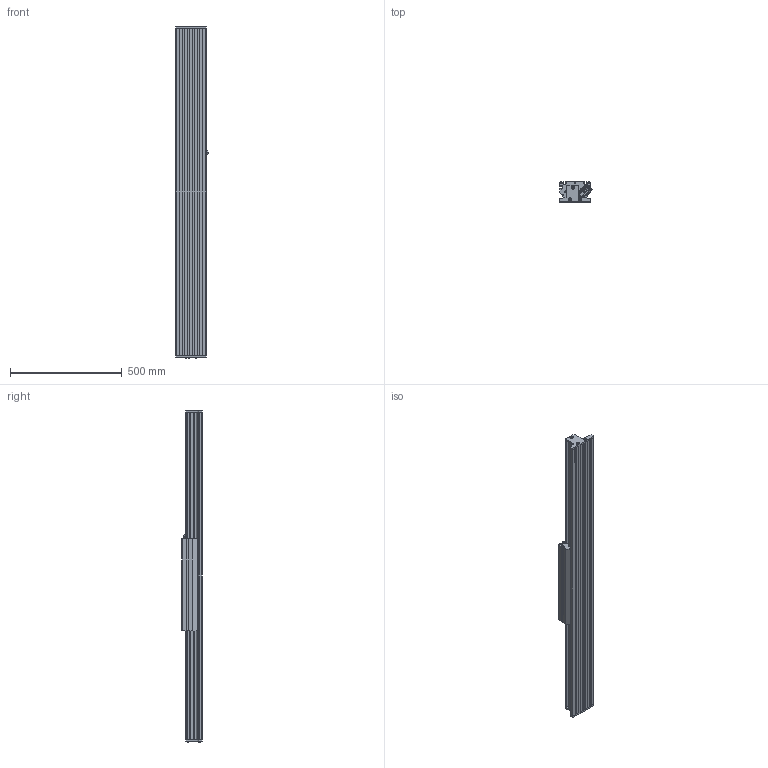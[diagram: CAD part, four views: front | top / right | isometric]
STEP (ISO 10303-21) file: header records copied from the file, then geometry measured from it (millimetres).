
FILE_DESCRIPTION (( 'STEP AP214' ), '1' );
FILE_NAME ('SINADRIVES Linear Motor Stage MLL20630XS-XX-1-0-ST-00-01476.STEP', '2015-07-07T07:52:26', ( 'Tecnico' ), ( '' ), 'SwSTEP 2.0', 'SolidWorks 2009', '' );
FILE_SCHEMA (( 'AUTOMOTIVE_DESIGN' ));
Length unit declared in the file: millimetre
Products named in the file (7): SINADRIVES CARRIAGE MLL20630XS-1; CARRIAGE MLL20630; Connector power+signal Y-tec 45; SINADRIVES PROFILE MLL2XXXX-1460; SINADRIVES ENDBLOCK MLL2; SINADRIVES ENDBLOCK MLL2-2; SINADRIVES Linear Motor Stage MLL20630XS-XX-1-0-ST-00-01476
Assembly tree (6 placements, depth 3):
  SINADRIVES Linear Motor Stage MLL20630XS-XX-1-0-ST-00-01476
    SINADRIVES CARRIAGE MLL20630XS-1
      CARRIAGE MLL20630
      Connector power+signal Y-tec 45
    SINADRIVES ENDBLOCK MLL2
    SINADRIVES ENDBLOCK MLL2-2
    SINADRIVES PROFILE MLL2XXXX-1460
Bounding box: 144.43 x 91 x 1484.8 mm (x, y, z)
Volume: 8157598.3 mm3; surface area: 1388532.6 mm2
Topology: 2 solids, 42 shells, 950 faces, 2640 edges, 1730 vertices
Faces by surface type: plane 445, cylinder 302, bspline 79, cone 70, torus 42, sphere 12
Entity records: 40587 total; most frequent: CARTESIAN_POINT 8656, ORIENTED_EDGE 5024, DIRECTION 4947, EDGE_CURVE 2622, AXIS2_PLACEMENT_3D 1781, VERTEX_POINT 1730, LINE 1385, VECTOR 1385
